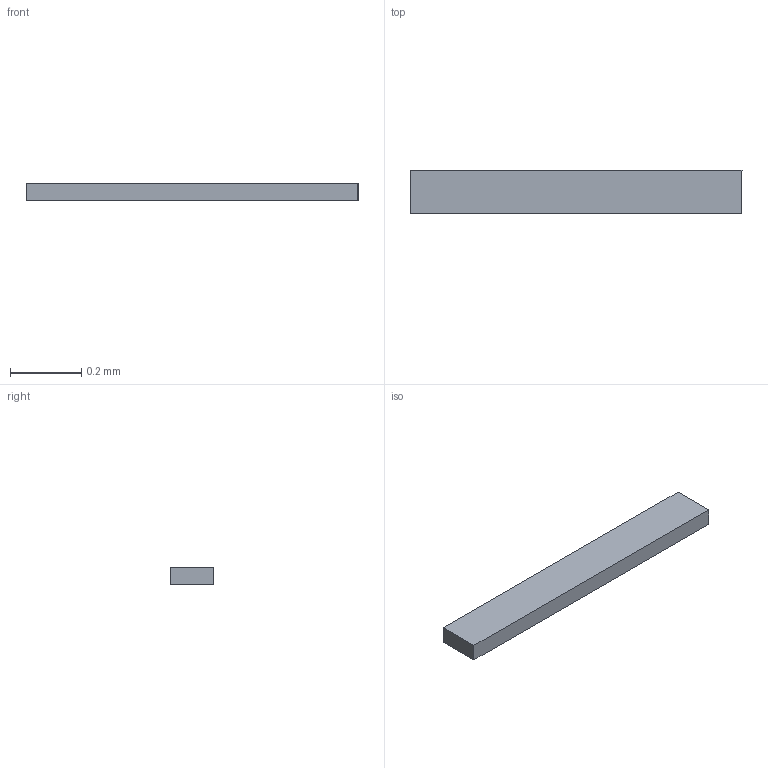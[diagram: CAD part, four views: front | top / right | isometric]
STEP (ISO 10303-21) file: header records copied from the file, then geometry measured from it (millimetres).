
FILE_DESCRIPTION(/* description */ ('STEP AP242 Edition 2','CAx-IF Rec.Pracs.---Representation and Presentation of Product Manufacturing Information (PMI)---4.0---2014-10-13','CAx-IF Rec.Pracs.---3D Tessellated Geometry---0.4---2014-09-14','2;1','CAx-IF Rec.Pracs.---User Defined Attributes---1.5---2016-08-15'),/* implementation_level */ '2;1');
FILE_NAME(/* name */ 'Drone Layout - Surface 305',/* time_stamp */ '2026-10-04T22:22:55Z',/* author */ (''),/* organization */ (''),/* preprocessor_version */ 'ST-DEVELOPER v20',/* originating_system */ 'ONSHAPE BY PTC INC, 1.221',/* authorisation */ ' ');
FILE_SCHEMA (('AP242_MANAGED_MODEL_BASED_3D_ENGINEERING_MIM_LF { 1 0 10303 442 3 1 4 }'));
Length unit declared in the file: metre
Products named in the file (1): Text_INT
Bounding box: 0.93 x 0.12 x 0.05 mm (x, y, z)
Volume: 0 mm3; surface area: 0.3 mm2
Topology: 1 solids, 1 shells, 6 faces, 12 edges, 8 vertices
Faces by surface type: plane 6
Entity records: 169 total; most frequent: CARTESIAN_POINT 27, DIRECTION 26, ORIENTED_EDGE 24, EDGE_CURVE 12, LINE 12, VECTOR 12, VERTEX_POINT 8, AXIS2_PLACEMENT_3D 7
